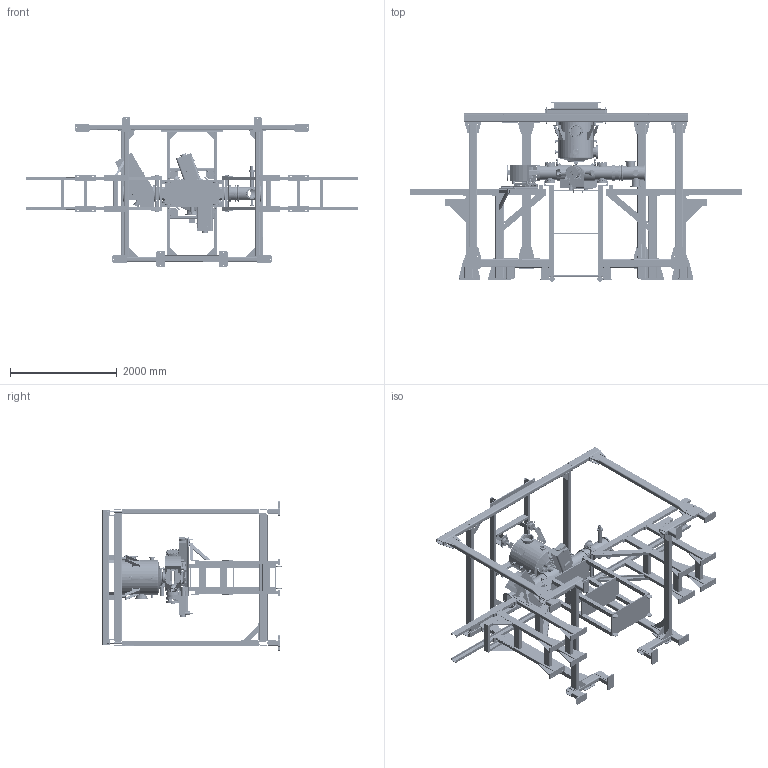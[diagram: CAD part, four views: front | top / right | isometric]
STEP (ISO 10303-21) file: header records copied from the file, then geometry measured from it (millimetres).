
FILE_DESCRIPTION (( 'STEP AP214' ), '1' );
FILE_NAME ('042700-29.03.26.STEP', '2026-03-29T12:01:19', ( '' ), ( '' ), 'SwSTEP 2.0', 'SolidWorks 2025', '' );
FILE_SCHEMA (( 'AUTOMOTIVE_DESIGN' ));
Length unit declared in the file: millimetre
Products named in the file (97): 039181_003; 900187_008; 042076_001; 042642_001; 039183_001; 900006_082; 040808_001; 900362_600; 039505_001; 900050_003; 039184_001; 042077_001; 900019_073; 039413_001; 039378_001; 040657_001; 900362_304; 041739_001; 039424_001; 040797_011; 039376_001; Mirror042642_001; 900362_390; 900057_014; 900362_510; 040673_001; 041476_001; 900050_004; 039210_001; 900006_077; 039199_001; 900050_006; 041539_001; 040423_001; 900215_005; 039392_001; 039366_001; 900006_069; 039389_001; 900057_011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
Assembly tree (1327 placements, depth 5):
  042700-29.03.26
    042699_001
    039381_007
      039373_001
        039366_001
        900362_667  x2
        039375_001
        039376_001  x2
        900362_600  x3
        039377_001
        039378_001
        900362_390  x4
        039379_001  x2
        039389_001  x2
        039390_001
        039391_001
        039392_001  x2
        039424_001  x2
        039501_001
        040423_001
        041809_001
        900362_510  x4
        040435_001  x4
        040443_001  x2
        040797_011
        041475_001  x2
        041476_001
        041476_001
        041476_001
        041476_001
        041739_001  x2
          041738_001
          900362_304
      039182_001
        039180_001
        039181_001
        039183_001
      039182_003
        039180_001
        039181_003
        039183_001
      039211_001  x2
        039197_001
          039184_001
          039192_001  x2
          039193_001  x2
          039198_001  x2
          039199_001  x2
          039505_001  x2
          040808_001
        039210_001
        900215_005
        900056_036
        040674_001
          040673_001
          900153_012
        900187_008
        900002_008
      900056_037  x96
      900187_008  x478
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Bounding box: 6220 x 3355 x 2815 mm (x, y, z)
Volume: 504701211.1 mm3; surface area: 104293248.7 mm2
Topology: 1634 solids, 1650 shells, 39601 faces, 94426 edges, 59146 vertices
Faces by surface type: cylinder 16792, plane 14197, cone 7464, torus 580, bspline 560, sphere 8
Entity records: 372729 total; most frequent: CARTESIAN_POINT 82910, DIRECTION 62109, ORIENTED_EDGE 55260, EDGE_CURVE 27630, AXIS2_PLACEMENT_3D 23644, VERTEX_POINT 17984, LINE 14821, VECTOR 14821
